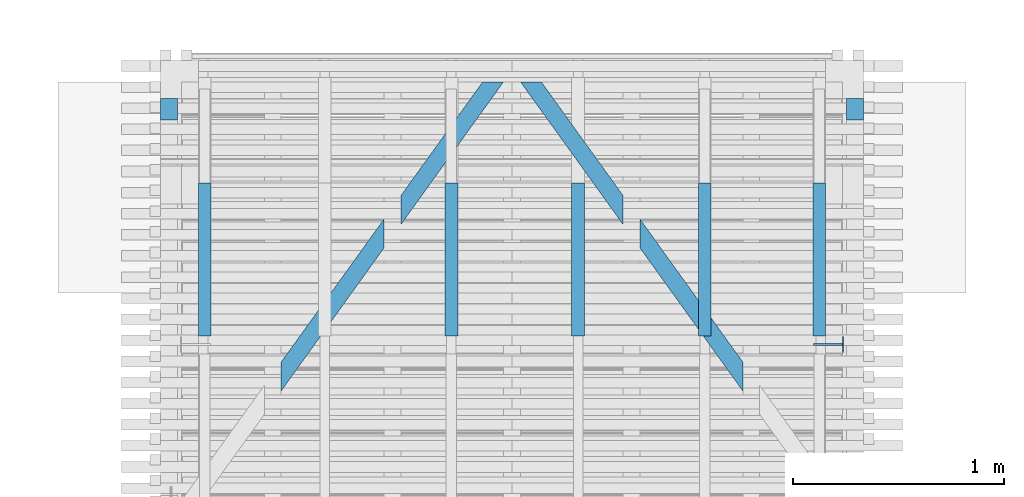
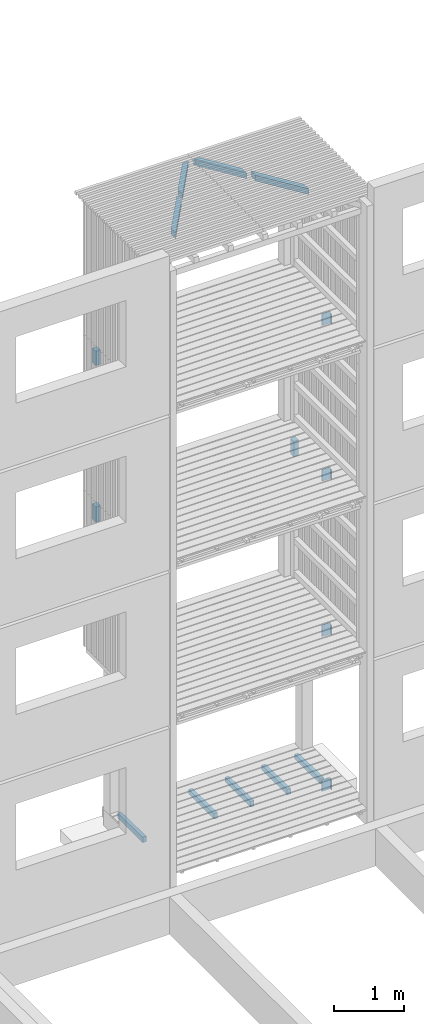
# One storey, part 173 of 182: 16 beams.
"""IFC2X3 building model written with IfcOpenShell, lengths in metres."""

from ifc_helpers import new_model, si_unit, frame, origin, place, context, project, spatial, faceted_brep, element, save


model = new_model("IFC2X3")

# Units and contexts
model_context = context("Model", 3, precision=1e-06, world=origin())
ifc_project = project(units=[si_unit("LENGTHUNIT", "METRE"), si_unit("PLANEANGLEUNIT", "RADIAN")], contexts=[model_context])

# Site, building, storey
site = spatial("IfcSite", under=ifc_project, CompositionType="ELEMENT")
building = spatial("IfcBuilding", under=site, CompositionType="ELEMENT")
storey = spatial("IfcBuildingStorey", under=building, Name="vs", CompositionType="ELEMENT", Elevation=-0.85)

# Beams
placement = place(None, origin())
beam_1_placement = place(placement, frame((46.179401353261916, 5.925077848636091, 2.439999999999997), z_axis=(-1.0, 0.0, 0.0), x_axis=(0.0, 0.0, 1.0)))
element("IfcBeam", 1, at=beam_1_placement, inside=storey, Name="Contre-usinage", context=model_context, shape_type="Brep", body=[
    faceted_brep([(0.2, 0.003999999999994, -0.065999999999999), (0.2, -0.004000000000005, -0.065999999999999), (0.175, -0.004000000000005, -0.065999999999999), (0.175, 0.003999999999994, -0.065999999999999), (0.0, 0.003999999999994, -0.065999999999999), (0.175, 0.003999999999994, -0.065999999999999), (0.175, 0.037999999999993, -0.065999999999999), (0.0, 0.037999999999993, -0.065999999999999), (0.0, -0.038000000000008, -0.065999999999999), (0.175, -0.038000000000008, -0.065999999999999), (0.175, -0.004000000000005, -0.065999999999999), (0.0, -0.004000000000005, -0.065999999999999), (0.0, -0.004000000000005, 0.071000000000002), (0.0, -0.004000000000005, -0.065999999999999), (0.175, -0.004000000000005, -0.065999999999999), (0.2, -0.004000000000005, -0.065999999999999), (0.2, -0.004000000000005, 0.071000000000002), (0.0, 0.003999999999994, 0.071000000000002), (0.0, -0.004000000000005, 0.071000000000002), (0.2, -0.004000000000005, 0.071000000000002), (0.2, 0.003999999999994, 0.071000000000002), (0.0, 0.037999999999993, -0.070999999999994), (0.175, 0.037999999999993, -0.070999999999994), (0.175, -0.038000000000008, -0.070999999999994), (0.0, -0.038000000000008, -0.070999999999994), (0.175, -0.038000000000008, -0.070999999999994), (0.175, 0.037999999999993, -0.070999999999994), (0.175, 0.037999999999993, -0.065999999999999), (0.175, 0.003999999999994, -0.065999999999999), (0.175, -0.004000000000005, -0.065999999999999), (0.175, -0.038000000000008, -0.065999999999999), (0.2, 0.003999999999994, -0.065999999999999), (0.175, 0.003999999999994, -0.065999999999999), (0.0, 0.003999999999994, -0.065999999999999), (0.0, 0.003999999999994, 0.071000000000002), (0.2, 0.003999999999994, 0.071000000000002), (0.2, 0.003999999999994, 0.071000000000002), (0.2, -0.004000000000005, 0.071000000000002), (0.2, -0.004000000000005, -0.065999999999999), (0.2, 0.003999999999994, -0.065999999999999), (0.0, 0.037999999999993, -0.065999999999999), (0.175, 0.037999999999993, -0.065999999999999), (0.175, 0.037999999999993, -0.070999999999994), (0.0, 0.037999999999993, -0.070999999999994), (0.0, 0.037999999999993, -0.070999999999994), (0.0, -0.038000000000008, -0.070999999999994), (0.0, -0.038000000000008, -0.065999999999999), (0.0, -0.004000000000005, -0.065999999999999), (0.0, -0.004000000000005, 0.071000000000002), (0.0, 0.003999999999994, 0.071000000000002), (0.0, 0.003999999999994, -0.065999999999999), (0.0, 0.037999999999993, -0.065999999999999), (0.0, -0.038000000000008, -0.065999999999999), (0.0, -0.038000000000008, -0.070999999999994), (0.175, -0.038000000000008, -0.070999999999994), (0.175, -0.038000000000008, -0.065999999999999)], [[[0, 1, 2, 3]], [[4, 5, 6, 7]], [[8, 9, 10, 11]], [[12, 13, 14, 15, 16]], [[17, 18, 19, 20]], [[21, 22, 23, 24]], [[25, 26, 27, 28, 29, 30]], [[31, 32, 33, 34, 35]], [[36, 37, 38, 39]], [[40, 41, 42, 43]], [[44, 45, 46, 47, 48, 49, 50, 51]], [[52, 53, 54, 55]]]),
])
beam_2_placement = place(placement, frame((46.30540135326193, 7.040077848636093, 4.85796194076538), z_axis=(0.0, -1.0, 0.0), x_axis=(0.0, 0.0, 1.0)))
element("IfcBeam", 2, at=beam_2_placement, inside=storey, Name="Support bardage", context=model_context, shape_type="Brep", body=[
    faceted_brep([(0.267038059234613, -0.039999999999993, -0.05), (0.267038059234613, 0.04000000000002, -0.05), (0.267038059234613, 0.04000000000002, 0.050000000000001), (0.267038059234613, -0.039999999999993, 0.050000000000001), (0.267038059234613, -0.039999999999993, -0.05), (0.267038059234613, -0.039999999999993, 0.050000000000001), (0.0, -0.039999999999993, 0.050000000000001), (0.0, -0.039999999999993, -0.05), (0.267038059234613, 0.04000000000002, -0.05), (0.267038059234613, -0.039999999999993, -0.05), (0.0, -0.039999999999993, -0.05), (0.0, 0.04000000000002, -0.05), (0.0, -0.039999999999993, 0.050000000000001), (0.267038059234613, -0.039999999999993, 0.050000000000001), (0.267038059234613, 0.04000000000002, 0.050000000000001), (0.0, 0.04000000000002, 0.050000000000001), (0.0, 0.04000000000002, 0.050000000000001), (0.267038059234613, 0.04000000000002, 0.050000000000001), (0.267038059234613, 0.04000000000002, -0.05), (0.0, 0.04000000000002, -0.05), (0.0, -0.039999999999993, 0.050000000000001), (0.0, 0.04000000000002, 0.050000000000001), (0.0, 0.04000000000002, -0.05), (0.0, -0.039999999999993, -0.05)], [[[0, 1, 2, 3]], [[4, 5, 6, 7]], [[8, 9, 10, 11]], [[12, 13, 14, 15]], [[16, 17, 18, 19]], [[20, 21, 22, 23]]]),
])
beam_3_placement = place(placement, frame((45.239539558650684, 6.516889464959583, 10.404999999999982), z_axis=(0.0, 0.0, 1.0), x_axis=(-0.583951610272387, 0.811788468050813, 0.0)))
element("IfcBeam", 3, at=beam_3_placement, inside=storey, Name="Support bardage", context=model_context, shape_type="Brep", body=[
    faceted_brep([(0.0, 0.040000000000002, 0.050000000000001), (0.0, 0.040000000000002, -0.050000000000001), (0.1112131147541, -0.039999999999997, -0.050000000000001), (0.1112131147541, -0.039999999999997, 0.050000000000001), (0.775855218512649, -0.039999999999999, 0.050000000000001), (0.83340238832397, 0.040000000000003, 0.050000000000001), (0.0, 0.040000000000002, 0.050000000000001), (0.1112131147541, -0.039999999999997, 0.050000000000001), (0.83340238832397, 0.040000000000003, -0.049999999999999), (0.775855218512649, -0.039999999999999, -0.050000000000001), (0.1112131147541, -0.039999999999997, -0.050000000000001), (0.0, 0.040000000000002, -0.050000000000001), (0.0, 0.040000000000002, 0.050000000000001), (0.83340238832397, 0.040000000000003, 0.050000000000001), (0.83340238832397, 0.040000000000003, -0.049999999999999), (0.0, 0.040000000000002, -0.050000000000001), (0.83340238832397, 0.040000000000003, 0.050000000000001), (0.775855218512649, -0.039999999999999, 0.050000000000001), (0.775855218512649, -0.039999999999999, -0.050000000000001), (0.83340238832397, 0.040000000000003, -0.049999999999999), (0.1112131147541, -0.039999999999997, -0.050000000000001), (0.775855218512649, -0.039999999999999, -0.050000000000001), (0.775855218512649, -0.039999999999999, 0.050000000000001), (0.1112131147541, -0.039999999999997, 0.050000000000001)], [[[0, 1, 2, 3]], [[4, 5, 6, 7]], [[8, 9, 10, 11]], [[12, 13, 14, 15]], [[16, 17, 18, 19]], [[20, 21, 22, 23]]]),
])
beam_4_placement = place(placement, frame((44.121263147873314, 6.516889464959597, 10.404999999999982), z_axis=(0.0, 0.0, 1.0), x_axis=(0.583951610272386, 0.811788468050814, 0.0)))
element("IfcBeam", 4, at=beam_4_placement, inside=storey, Name="Support bardage", context=model_context, shape_type="Brep", body=[
    faceted_brep([(0.775855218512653, 0.039999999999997, -0.050000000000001), (0.775855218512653, 0.039999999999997, 0.050000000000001), (0.833402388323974, -0.040000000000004, 0.050000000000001), (0.833402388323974, -0.040000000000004, -0.049999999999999), (0.833402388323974, -0.040000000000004, -0.049999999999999), (0.833402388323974, -0.040000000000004, 0.050000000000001), (4e-15, -0.040000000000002, 0.050000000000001), (4e-15, -0.040000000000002, -0.050000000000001), (0.775855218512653, 0.039999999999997, -0.050000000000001), (0.833402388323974, -0.040000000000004, -0.049999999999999), (4e-15, -0.040000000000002, -0.050000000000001), (0.111213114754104, 0.039999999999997, -0.050000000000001), (0.775855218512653, 0.039999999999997, 0.050000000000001), (0.775855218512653, 0.039999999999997, -0.050000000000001), (0.111213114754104, 0.039999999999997, -0.050000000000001), (0.111213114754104, 0.039999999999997, 0.050000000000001), (0.833402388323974, -0.040000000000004, 0.050000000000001), (0.775855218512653, 0.039999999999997, 0.050000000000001), (0.111213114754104, 0.039999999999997, 0.050000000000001), (4e-15, -0.040000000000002, 0.050000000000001), (0.111213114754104, 0.039999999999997, -0.050000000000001), (4e-15, -0.040000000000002, -0.050000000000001), (4e-15, -0.040000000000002, 0.050000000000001), (0.111213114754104, 0.039999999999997, 0.050000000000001)], [[[0, 1, 2, 3]], [[4, 5, 6, 7]], [[8, 9, 10, 11]], [[12, 13, 14, 15]], [[16, 17, 18, 19]], [[20, 21, 22, 23]]]),
])
beam_5_placement = place(placement, frame((46.179401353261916, 5.925077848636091, 5.139999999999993), z_axis=(-1.0, 0.0, 0.0), x_axis=(0.0, 0.0, 1.0)))
element("IfcBeam", 5, at=beam_5_placement, inside=storey, Name="Contre-usinage", context=model_context, shape_type="Brep", body=[
    faceted_brep([(0.2, 0.003999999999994, -0.065999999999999), (0.2, -0.004000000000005, -0.065999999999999), (0.174999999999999, -0.004000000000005, -0.065999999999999), (0.174999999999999, 0.003999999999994, -0.065999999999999), (0.0, 0.003999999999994, -0.065999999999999), (0.174999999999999, 0.003999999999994, -0.065999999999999), (0.174999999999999, 0.037999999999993, -0.065999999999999), (0.0, 0.037999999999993, -0.065999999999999), (0.0, -0.038000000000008, -0.065999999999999), (0.174999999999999, -0.038000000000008, -0.065999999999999), (0.174999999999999, -0.004000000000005, -0.065999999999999), (0.0, -0.004000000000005, -0.065999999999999), (0.0, -0.004000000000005, 0.071000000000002), (0.0, -0.004000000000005, -0.065999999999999), (0.174999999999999, -0.004000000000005, -0.065999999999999), (0.2, -0.004000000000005, -0.065999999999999), (0.2, -0.004000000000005, 0.071000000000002), (0.0, 0.003999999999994, 0.071000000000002), (0.0, -0.004000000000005, 0.071000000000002), (0.2, -0.004000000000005, 0.071000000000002), (0.2, 0.003999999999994, 0.071000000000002), (0.0, 0.037999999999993, -0.070999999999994), (0.174999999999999, 0.037999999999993, -0.070999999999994), (0.174999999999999, -0.038000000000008, -0.070999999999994), (0.0, -0.038000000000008, -0.070999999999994), (0.174999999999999, -0.038000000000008, -0.070999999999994), (0.174999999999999, 0.037999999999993, -0.070999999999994), (0.174999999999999, 0.037999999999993, -0.065999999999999), (0.174999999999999, 0.003999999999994, -0.065999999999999), (0.174999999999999, -0.004000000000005, -0.065999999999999), (0.174999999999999, -0.038000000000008, -0.065999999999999), (0.2, 0.003999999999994, -0.065999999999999), (0.174999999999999, 0.003999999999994, -0.065999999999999), (0.0, 0.003999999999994, -0.065999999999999), (0.0, 0.003999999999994, 0.071000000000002), (0.2, 0.003999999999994, 0.071000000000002), (0.2, 0.003999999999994, 0.071000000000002), (0.2, -0.004000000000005, 0.071000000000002), (0.2, -0.004000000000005, -0.065999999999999), (0.2, 0.003999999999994, -0.065999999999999), (0.0, 0.037999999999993, -0.065999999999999), (0.174999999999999, 0.037999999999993, -0.065999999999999), (0.174999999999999, 0.037999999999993, -0.070999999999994), (0.0, 0.037999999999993, -0.070999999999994), (0.0, 0.037999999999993, -0.070999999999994), (0.0, -0.038000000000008, -0.070999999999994), (0.0, -0.038000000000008, -0.065999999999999), (0.0, -0.004000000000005, -0.065999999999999), (0.0, -0.004000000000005, 0.071000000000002), (0.0, 0.003999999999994, 0.071000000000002), (0.0, 0.003999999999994, -0.065999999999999), (0.0, 0.037999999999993, -0.065999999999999), (0.0, -0.038000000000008, -0.065999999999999), (0.0, -0.038000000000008, -0.070999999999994), (0.174999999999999, -0.038000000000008, -0.070999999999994), (0.174999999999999, -0.038000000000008, -0.065999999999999)], [[[0, 1, 2, 3]], [[4, 5, 6, 7]], [[8, 9, 10, 11]], [[12, 13, 14, 15, 16]], [[17, 18, 19, 20]], [[21, 22, 23, 24]], [[25, 26, 27, 28, 29, 30]], [[31, 32, 33, 34, 35]], [[36, 37, 38, 39]], [[40, 41, 42, 43]], [[44, 45, 46, 47, 48, 49, 50, 51]], [[52, 53, 54, 55]]]),
])
beam_6_placement = place(placement, frame((46.179401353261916, 5.925077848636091, -0.243899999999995), z_axis=(-1.0, 0.0, 0.0), x_axis=(0.0, 0.0, 1.0)))
element("IfcBeam", 6, at=beam_6_placement, inside=storey, Name="Contre-usinage", context=model_context, shape_type="Brep", body=[
    faceted_brep([(0.2, 0.003999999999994, -0.065999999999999), (0.2, -0.004000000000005, -0.065999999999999), (0.175, -0.004000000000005, -0.065999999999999), (0.175, 0.003999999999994, -0.065999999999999), (0.0, 0.003999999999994, -0.065999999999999), (0.175, 0.003999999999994, -0.065999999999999), (0.175, 0.037999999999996, -0.065999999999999), (0.0, 0.037999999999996, -0.065999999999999), (0.0, -0.038000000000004, -0.065999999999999), (0.175, -0.038000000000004, -0.065999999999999), (0.175, -0.004000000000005, -0.065999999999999), (0.0, -0.004000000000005, -0.065999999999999), (0.0, -0.004000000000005, 0.071000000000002), (0.0, -0.004000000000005, -0.065999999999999), (0.175, -0.004000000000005, -0.065999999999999), (0.2, -0.004000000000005, -0.065999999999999), (0.2, -0.004000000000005, 0.071000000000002), (0.0, 0.003999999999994, 0.071000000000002), (0.0, -0.004000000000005, 0.071000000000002), (0.2, -0.004000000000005, 0.071000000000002), (0.2, 0.003999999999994, 0.071000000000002), (0.0, 0.037999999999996, -0.071000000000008), (0.175, 0.037999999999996, -0.071000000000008), (0.175, -0.038000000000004, -0.071000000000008), (0.0, -0.038000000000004, -0.071000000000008), (0.2, 0.003999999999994, 0.071000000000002), (0.2, -0.004000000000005, 0.071000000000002), (0.2, -0.004000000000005, -0.065999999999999), (0.2, 0.003999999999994, -0.065999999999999), (0.2, 0.003999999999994, -0.065999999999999), (0.175, 0.003999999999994, -0.065999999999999), (0.0, 0.003999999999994, -0.065999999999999), (0.0, 0.003999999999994, 0.071000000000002), (0.2, 0.003999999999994, 0.071000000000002), (0.175, -0.038000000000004, -0.071000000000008), (0.175, 0.037999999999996, -0.071000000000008), (0.175, 0.037999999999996, -0.065999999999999), (0.175, 0.003999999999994, -0.065999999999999), (0.175, -0.004000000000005, -0.065999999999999), (0.175, -0.038000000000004, -0.065999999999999), (0.0, 0.037999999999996, -0.071000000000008), (0.0, -0.038000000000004, -0.071000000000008), (0.0, -0.038000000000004, -0.065999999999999), (0.0, -0.004000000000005, -0.065999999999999), (0.0, -0.004000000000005, 0.071000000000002), (0.0, 0.003999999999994, 0.071000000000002), (0.0, 0.003999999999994, -0.065999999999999), (0.0, 0.037999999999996, -0.065999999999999), (0.0, 0.037999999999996, -0.071000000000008), (0.0, 0.037999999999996, -0.065999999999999), (0.175, 0.037999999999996, -0.065999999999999), (0.175, 0.037999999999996, -0.071000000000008), (0.0, -0.038000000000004, -0.065999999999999), (0.0, -0.038000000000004, -0.071000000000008), (0.175, -0.038000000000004, -0.071000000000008), (0.175, -0.038000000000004, -0.065999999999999)], [[[0, 1, 2, 3]], [[4, 5, 6, 7]], [[8, 9, 10, 11]], [[12, 13, 14, 15, 16]], [[17, 18, 19, 20]], [[21, 22, 23, 24]], [[25, 26, 27, 28]], [[29, 30, 31, 32, 33]], [[34, 35, 36, 37, 38, 39]], [[40, 41, 42, 43, 44, 45, 46, 47]], [[48, 49, 50, 51]], [[52, 53, 54, 55]]]),
])
beam_7_placement = place(placement, frame((43.055401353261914, 7.04007784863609, 7.576188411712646), z_axis=(0.0, -1.0, 0.0), x_axis=(0.0, 0.0, 1.0)))
element("IfcBeam", 7, at=beam_7_placement, inside=storey, Name="Support bardage", context=model_context, shape_type="Brep", body=[
    faceted_brep([(0.248811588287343, -0.040000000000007, -0.050000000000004), (0.248811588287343, 0.039999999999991, -0.050000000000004), (0.248811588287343, 0.039999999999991, 0.049999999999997), (0.248811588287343, -0.040000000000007, 0.049999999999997), (0.248811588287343, 0.039999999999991, 0.049999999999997), (0.248811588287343, 0.039999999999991, -0.050000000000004), (0.0, 0.039999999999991, -0.050000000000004), (0.0, 0.039999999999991, 0.049999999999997), (0.248811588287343, 0.039999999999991, -0.050000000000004), (0.248811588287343, -0.040000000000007, -0.050000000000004), (0.0, -0.040000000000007, -0.050000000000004), (0.0, 0.039999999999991, -0.050000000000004), (0.248811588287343, -0.040000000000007, -0.050000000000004), (0.248811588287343, -0.040000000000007, 0.049999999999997), (0.0, -0.040000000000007, 0.049999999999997), (0.0, -0.040000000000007, -0.050000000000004), (0.248811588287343, -0.040000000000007, 0.049999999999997), (0.248811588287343, 0.039999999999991, 0.049999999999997), (0.0, 0.039999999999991, 0.049999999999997), (0.0, -0.040000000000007, 0.049999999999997), (0.0, -0.040000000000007, -0.050000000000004), (0.0, -0.040000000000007, 0.049999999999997), (0.0, 0.039999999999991, 0.049999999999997), (0.0, 0.039999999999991, -0.050000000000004)], [[[0, 1, 2, 3]], [[4, 5, 6, 7]], [[8, 9, 10, 11]], [[12, 13, 14, 15]], [[16, 17, 18, 19]], [[20, 21, 22, 23]]]),
])
beam_8_placement = place(placement, frame((45.806206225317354, 5.729129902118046, 10.404999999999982), z_axis=(0.0, 0.0, 1.0), x_axis=(-0.583951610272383, 0.811788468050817, 0.0)))
element("IfcBeam", 8, at=beam_8_placement, inside=storey, Name="Support bardage", context=model_context, shape_type="Brep", body=[
    faceted_brep([(0.111213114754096, -0.040000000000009, -0.050000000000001), (0.111213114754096, -0.040000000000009, 0.050000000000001), (-1e-14, 0.039999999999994, 0.050000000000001), (-1e-14, 0.039999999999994, -0.050000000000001), (0.833402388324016, 0.040000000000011, -0.050000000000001), (0.94461550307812, -0.039999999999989, -0.050000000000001), (0.111213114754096, -0.040000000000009, -0.050000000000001), (-1e-14, 0.039999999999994, -0.050000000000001), (0.833402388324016, 0.040000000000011, 0.050000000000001), (0.833402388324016, 0.040000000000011, -0.050000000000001), (-1e-14, 0.039999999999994, -0.050000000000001), (-1e-14, 0.039999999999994, 0.050000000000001), (0.111213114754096, -0.040000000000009, -0.050000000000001), (0.94461550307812, -0.039999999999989, -0.050000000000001), (0.94461550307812, -0.039999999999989, 0.050000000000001), (0.111213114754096, -0.040000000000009, 0.050000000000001), (0.111213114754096, -0.040000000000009, 0.050000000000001), (0.94461550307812, -0.039999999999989, 0.050000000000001), (0.833402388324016, 0.040000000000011, 0.050000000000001), (-1e-14, 0.039999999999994, 0.050000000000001), (0.94461550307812, -0.039999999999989, -0.050000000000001), (0.833402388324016, 0.040000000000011, -0.050000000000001), (0.833402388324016, 0.040000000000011, 0.050000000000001), (0.94461550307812, -0.039999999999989, 0.050000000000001)], [[[0, 1, 2, 3]], [[4, 5, 6, 7]], [[8, 9, 10, 11]], [[12, 13, 14, 15]], [[16, 17, 18, 19]], [[20, 21, 22, 23]]]),
])
beam_9_placement = place(placement, frame((43.55459648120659, 5.729129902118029, 10.404999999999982), z_axis=(0.0, 0.0, 1.0), x_axis=(0.583951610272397, 0.811788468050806, 0.0)))
element("IfcBeam", 9, at=beam_9_placement, inside=storey, Name="Support bardage", context=model_context, shape_type="Brep", body=[
    faceted_brep([(0.833402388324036, -0.040000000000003, 0.050000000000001), (0.833402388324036, -0.040000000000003, -0.050000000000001), (0.944615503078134, 0.039999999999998, -0.050000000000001), (0.944615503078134, 0.039999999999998, 0.050000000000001), (0.833402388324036, -0.040000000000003, -0.050000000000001), (0.833402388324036, -0.040000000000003, 0.050000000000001), (3e-15, -0.040000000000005, 0.050000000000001), (3e-15, -0.040000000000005, -0.050000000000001), (0.944615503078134, 0.039999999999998, -0.050000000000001), (0.833402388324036, -0.040000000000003, -0.050000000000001), (3e-15, -0.040000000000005, -0.050000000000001), (0.111213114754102, 0.039999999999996, -0.050000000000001), (0.944615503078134, 0.039999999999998, 0.050000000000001), (0.944615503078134, 0.039999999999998, -0.050000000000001), (0.111213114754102, 0.039999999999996, -0.050000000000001), (0.111213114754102, 0.039999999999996, 0.050000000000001), (0.833402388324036, -0.040000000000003, 0.050000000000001), (0.944615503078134, 0.039999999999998, 0.050000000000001), (0.111213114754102, 0.039999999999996, 0.050000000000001), (3e-15, -0.040000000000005, 0.050000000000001), (0.111213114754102, 0.039999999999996, -0.050000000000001), (3e-15, -0.040000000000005, -0.050000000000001), (3e-15, -0.040000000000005, 0.050000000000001), (0.111213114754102, 0.039999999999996, 0.050000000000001)], [[[0, 1, 2, 3]], [[4, 5, 6, 7]], [[8, 9, 10, 11]], [[12, 13, 14, 15]], [[16, 17, 18, 19]], [[20, 21, 22, 23]]]),
])
beam_10_placement = place(placement, frame((43.055401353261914, 7.04007784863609, 4.85796194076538), z_axis=(0.0, -1.0, 0.0), x_axis=(0.0, 0.0, 1.0)))
element("IfcBeam", 10, at=beam_10_placement, inside=storey, Name="Support bardage", context=model_context, shape_type="Brep", body=[
    faceted_brep([(0.267038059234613, -0.040000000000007, -0.050000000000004), (0.267038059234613, 0.039999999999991, -0.050000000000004), (0.267038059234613, 0.039999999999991, 0.049999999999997), (0.267038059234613, -0.040000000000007, 0.049999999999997), (0.267038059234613, 0.039999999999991, 0.049999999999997), (0.267038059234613, 0.039999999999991, -0.050000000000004), (0.0, 0.039999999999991, -0.050000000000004), (0.0, 0.039999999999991, 0.049999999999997), (0.267038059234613, -0.040000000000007, 0.049999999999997), (0.267038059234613, 0.039999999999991, 0.049999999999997), (0.0, 0.039999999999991, 0.049999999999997), (0.0, -0.040000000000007, 0.049999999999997), (0.267038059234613, 0.039999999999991, -0.050000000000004), (0.267038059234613, -0.040000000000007, -0.050000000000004), (0.0, -0.040000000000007, -0.050000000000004), (0.0, 0.039999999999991, -0.050000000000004), (0.267038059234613, -0.040000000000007, -0.050000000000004), (0.267038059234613, -0.040000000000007, 0.049999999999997), (0.0, -0.040000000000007, 0.049999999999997), (0.0, -0.040000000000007, -0.050000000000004), (0.0, 0.039999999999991, -0.050000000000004), (0.0, -0.040000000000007, -0.050000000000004), (0.0, -0.040000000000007, 0.049999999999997), (0.0, 0.039999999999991, 0.049999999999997)], [[[0, 1, 2, 3]], [[4, 5, 6, 7]], [[8, 9, 10, 11]], [[12, 13, 14, 15]], [[16, 17, 18, 19]], [[20, 21, 22, 23]]]),
])
beam_11_placement = place(placement, frame((44.993401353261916, 5.965077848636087, -0.091949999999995), z_axis=(0.0, 0.0, 1.0), x_axis=(0.0, 1.0, 0.0)))
element("IfcBeam", 11, at=beam_11_placement, inside=storey, Name="Solive", context=model_context, shape_type="Brep", body=[
    faceted_brep([(0.0, -0.030000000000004, -0.04805), (0.0, 0.029999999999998, -0.04805), (0.725000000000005, 0.029999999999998, -0.04805), (0.725000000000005, -0.030000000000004, -0.04805), (0.725000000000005, -0.030000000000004, 0.033549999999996), (0.0, -0.030000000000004, 0.048049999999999), (0.0, -0.030000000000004, -0.04805), (0.725000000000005, -0.030000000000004, -0.04805), (0.0, -0.030000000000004, 0.048049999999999), (0.725000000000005, -0.030000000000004, 0.033549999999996), (0.725000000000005, 0.029999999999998, 0.033549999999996), (0.0, 0.029999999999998, 0.048049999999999), (0.0, -0.030000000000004, 0.048049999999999), (0.0, 0.029999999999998, 0.048049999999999), (0.0, 0.029999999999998, -0.04805), (0.0, -0.030000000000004, -0.04805), (0.0, 0.029999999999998, -0.04805), (0.0, 0.029999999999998, 0.048049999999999), (0.725000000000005, 0.029999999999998, 0.033549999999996), (0.725000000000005, 0.029999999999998, -0.04805), (0.725000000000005, -0.030000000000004, 0.033549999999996), (0.725000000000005, -0.030000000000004, -0.04805), (0.725000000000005, 0.029999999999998, -0.04805), (0.725000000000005, 0.029999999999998, 0.033549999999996)], [[[0, 1, 2, 3]], [[4, 5, 6, 7]], [[8, 9, 10, 11]], [[12, 13, 14, 15]], [[16, 17, 18, 19]], [[20, 21, 22, 23]]]),
])
beam_12_placement = place(placement, frame((45.59340135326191, 5.965077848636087, -0.091949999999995), z_axis=(0.0, 0.0, 1.0), x_axis=(0.0, 1.0, 0.0)))
element("IfcBeam", 12, at=beam_12_placement, inside=storey, Name="Solive", context=model_context, shape_type="Brep", body=[
    faceted_brep([(0.0, -0.029999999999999, -0.04805), (0.0, 0.030000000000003, -0.04805), (0.725000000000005, 0.030000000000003, -0.04805), (0.725000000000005, -0.029999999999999, -0.04805), (0.725000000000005, -0.029999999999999, 0.033549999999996), (0.0, -0.029999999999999, 0.048049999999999), (0.0, -0.029999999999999, -0.04805), (0.725000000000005, -0.029999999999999, -0.04805), (0.0, -0.029999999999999, 0.048049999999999), (0.725000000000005, -0.029999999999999, 0.033549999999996), (0.725000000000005, 0.030000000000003, 0.033549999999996), (0.0, 0.030000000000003, 0.048049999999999), (0.0, -0.029999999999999, 0.048049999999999), (0.0, 0.030000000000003, 0.048049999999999), (0.0, 0.030000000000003, -0.04805), (0.0, -0.029999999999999, -0.04805), (0.0, 0.030000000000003, -0.04805), (0.0, 0.030000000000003, 0.048049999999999), (0.725000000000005, 0.030000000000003, 0.033549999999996), (0.725000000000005, 0.030000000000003, -0.04805), (0.725000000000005, -0.029999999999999, 0.033549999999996), (0.725000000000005, -0.029999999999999, -0.04805), (0.725000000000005, 0.030000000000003, -0.04805), (0.725000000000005, 0.030000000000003, 0.033549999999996)], [[[0, 1, 2, 3]], [[4, 5, 6, 7]], [[8, 9, 10, 11]], [[12, 13, 14, 15]], [[16, 17, 18, 19]], [[20, 21, 22, 23]]]),
])
beam_13_placement = place(placement, frame((43.225401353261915, 5.965077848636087, -0.091949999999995), z_axis=(0.0, 0.0, 1.0), x_axis=(0.0, 1.0, 0.0)))
element("IfcBeam", 13, at=beam_13_placement, inside=storey, Name="Solive", context=model_context, shape_type="Brep", body=[
    faceted_brep([(0.0, -0.030000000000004, -0.04805), (0.0, 0.029999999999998, -0.04805), (0.725000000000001, 0.029999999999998, -0.04805), (0.725000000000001, -0.030000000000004, -0.04805), (0.725000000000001, -0.030000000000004, 0.033549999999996), (0.0, -0.030000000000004, 0.048049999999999), (0.0, -0.030000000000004, -0.04805), (0.725000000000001, -0.030000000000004, -0.04805), (0.0, -0.030000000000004, 0.048049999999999), (0.725000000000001, -0.030000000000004, 0.033549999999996), (0.725000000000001, 0.029999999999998, 0.033549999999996), (0.0, 0.029999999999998, 0.048049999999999), (0.0, -0.030000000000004, 0.048049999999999), (0.0, 0.029999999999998, 0.048049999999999), (0.0, 0.029999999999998, -0.04805), (0.0, -0.030000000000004, -0.04805), (0.0, 0.029999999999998, -0.04805), (0.0, 0.029999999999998, 0.048049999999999), (0.725000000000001, 0.029999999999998, 0.033549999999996), (0.725000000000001, 0.029999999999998, -0.04805), (0.725000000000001, -0.030000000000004, 0.033549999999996), (0.725000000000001, -0.030000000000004, -0.04805), (0.725000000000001, 0.029999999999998, -0.04805), (0.725000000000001, 0.029999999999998, 0.033549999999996)], [[[0, 1, 2, 3]], [[4, 5, 6, 7]], [[8, 9, 10, 11]], [[12, 13, 14, 15]], [[16, 17, 18, 19]], [[20, 21, 22, 23]]]),
])
beam_14_placement = place(placement, frame((46.179401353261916, 5.925077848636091, 7.839999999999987), z_axis=(-1.0, 0.0, 0.0), x_axis=(0.0, 0.0, 1.0)))
element("IfcBeam", 14, at=beam_14_placement, inside=storey, Name="Contre-usinage", context=model_context, shape_type="Brep", body=[
    faceted_brep([(0.200000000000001, 0.003999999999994, -0.065999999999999), (0.200000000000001, -0.004000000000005, -0.065999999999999), (0.175000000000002, -0.004000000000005, -0.065999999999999), (0.175000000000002, 0.003999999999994, -0.065999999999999), (2e-15, 0.003999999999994, -0.065999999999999), (0.175000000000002, 0.003999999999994, -0.065999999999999), (0.175000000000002, 0.037999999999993, -0.065999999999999), (2e-15, 0.037999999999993, -0.065999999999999), (2e-15, -0.038000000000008, -0.065999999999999), (0.175000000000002, -0.038000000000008, -0.065999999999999), (0.175000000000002, -0.004000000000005, -0.065999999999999), (2e-15, -0.004000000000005, -0.065999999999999), (2e-15, -0.004000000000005, 0.071000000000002), (2e-15, -0.004000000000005, -0.065999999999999), (0.175000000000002, -0.004000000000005, -0.065999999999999), (0.200000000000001, -0.004000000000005, -0.065999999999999), (0.200000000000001, -0.004000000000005, 0.071000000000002), (2e-15, 0.003999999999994, 0.071000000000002), (2e-15, -0.004000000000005, 0.071000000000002), (0.200000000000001, -0.004000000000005, 0.071000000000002), (0.200000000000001, 0.003999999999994, 0.071000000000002), (2e-15, 0.037999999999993, -0.071000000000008), (0.175000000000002, 0.037999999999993, -0.071000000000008), (0.175000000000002, -0.038000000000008, -0.071000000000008), (2e-15, -0.038000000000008, -0.071000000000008), (0.175000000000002, -0.038000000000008, -0.071000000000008), (0.175000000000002, 0.037999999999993, -0.071000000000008), (0.175000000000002, 0.037999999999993, -0.065999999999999), (0.175000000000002, 0.003999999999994, -0.065999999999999), (0.175000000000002, -0.004000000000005, -0.065999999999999), (0.175000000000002, -0.038000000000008, -0.065999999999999), (0.200000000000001, 0.003999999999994, -0.065999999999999), (0.175000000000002, 0.003999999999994, -0.065999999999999), (2e-15, 0.003999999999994, -0.065999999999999), (2e-15, 0.003999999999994, 0.071000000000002), (0.200000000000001, 0.003999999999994, 0.071000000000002), (0.200000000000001, 0.003999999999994, 0.071000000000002), (0.200000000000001, -0.004000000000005, 0.071000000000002), (0.200000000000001, -0.004000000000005, -0.065999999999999), (0.200000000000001, 0.003999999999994, -0.065999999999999), (2e-15, 0.037999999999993, -0.065999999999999), (0.175000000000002, 0.037999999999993, -0.065999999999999), (0.175000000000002, 0.037999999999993, -0.071000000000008), (2e-15, 0.037999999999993, -0.071000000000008), (2e-15, 0.037999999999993, -0.071000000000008), (2e-15, -0.038000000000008, -0.071000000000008), (2e-15, -0.038000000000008, -0.065999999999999), (2e-15, -0.004000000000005, -0.065999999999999), (2e-15, -0.004000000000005, 0.071000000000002), (2e-15, 0.003999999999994, 0.071000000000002), (2e-15, 0.003999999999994, -0.065999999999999), (2e-15, 0.037999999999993, -0.065999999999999), (2e-15, -0.038000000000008, -0.065999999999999), (2e-15, -0.038000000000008, -0.071000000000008), (0.175000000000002, -0.038000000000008, -0.071000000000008), (0.175000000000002, -0.038000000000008, -0.065999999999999)], [[[0, 1, 2, 3]], [[4, 5, 6, 7]], [[8, 9, 10, 11]], [[12, 13, 14, 15, 16]], [[17, 18, 19, 20]], [[21, 22, 23, 24]], [[25, 26, 27, 28, 29, 30]], [[31, 32, 33, 34, 35]], [[36, 37, 38, 39]], [[40, 41, 42, 43]], [[44, 45, 46, 47, 48, 49, 50, 51]], [[52, 53, 54, 55]]]),
])
beam_15_placement = place(placement, frame((46.13540135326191, 5.965077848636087, -0.091949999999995), z_axis=(0.0, 0.0, 1.0), x_axis=(0.0, 1.0, 0.0)))
element("IfcBeam", 15, at=beam_15_placement, inside=storey, Name="Solive", context=model_context, shape_type="Brep", body=[
    faceted_brep([(0.0, -0.03, -0.04805), (0.0, 0.030000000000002, -0.04805), (0.725000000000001, 0.030000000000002, -0.04805), (0.725000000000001, -0.03, -0.04805), (0.725000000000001, -0.03, 0.033549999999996), (0.0, -0.03, 0.048049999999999), (0.0, -0.03, -0.04805), (0.725000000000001, -0.03, -0.04805), (0.0, -0.03, 0.048049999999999), (0.725000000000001, -0.03, 0.033549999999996), (0.725000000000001, 0.030000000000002, 0.033549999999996), (0.0, 0.030000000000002, 0.048049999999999), (0.0, -0.03, 0.048049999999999), (0.0, 0.030000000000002, 0.048049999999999), (0.0, 0.030000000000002, -0.04805), (0.0, -0.03, -0.04805), (0.0, 0.030000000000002, -0.04805), (0.0, 0.030000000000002, 0.048049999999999), (0.725000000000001, 0.030000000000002, 0.033549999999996), (0.725000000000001, 0.030000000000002, -0.04805), (0.725000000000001, -0.03, 0.033549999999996), (0.725000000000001, -0.03, -0.04805), (0.725000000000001, 0.030000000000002, -0.04805), (0.725000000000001, 0.030000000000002, 0.033549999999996)], [[[0, 1, 2, 3]], [[4, 5, 6, 7]], [[8, 9, 10, 11]], [[12, 13, 14, 15]], [[16, 17, 18, 19]], [[20, 21, 22, 23]]]),
])
beam_16_placement = place(placement, frame((44.39340135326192, 5.965077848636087, -0.091949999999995), z_axis=(0.0, 0.0, 1.0), x_axis=(0.0, 1.0, 0.0)))
element("IfcBeam", 16, at=beam_16_placement, inside=storey, Name="Solive", context=model_context, shape_type="Brep", body=[
    faceted_brep([(0.0, -0.029999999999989, -0.04805), (0.0, 0.029999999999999, -0.04805), (0.725000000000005, 0.029999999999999, -0.04805), (0.725000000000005, -0.030000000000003, -0.04805), (0.725000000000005, -0.029999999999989, 0.033549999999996), (0.0, -0.029999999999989, 0.048049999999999), (0.0, -0.029999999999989, -0.04805), (0.725000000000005, -0.030000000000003, -0.04805), (0.0, -0.029999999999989, 0.048049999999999), (0.725000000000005, -0.029999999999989, 0.033549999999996), (0.725000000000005, 0.029999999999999, 0.033549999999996), (0.0, 0.029999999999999, 0.048049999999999), (0.0, -0.029999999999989, 0.048049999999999), (0.0, 0.029999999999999, 0.048049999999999), (0.0, 0.029999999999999, -0.04805), (0.0, -0.029999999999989, -0.04805), (0.0, 0.029999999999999, -0.04805), (0.0, 0.029999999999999, 0.048049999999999), (0.725000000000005, 0.029999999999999, 0.033549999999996), (0.725000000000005, 0.029999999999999, -0.04805), (0.725000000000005, -0.029999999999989, 0.033549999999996), (0.725000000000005, -0.030000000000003, -0.04805), (0.725000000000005, 0.029999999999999, -0.04805), (0.725000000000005, 0.029999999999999, 0.033549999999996)], [[[0, 1, 2, 3]], [[4, 5, 6, 7]], [[8, 9, 10, 11]], [[12, 13, 14, 15]], [[16, 17, 18, 19]], [[20, 21, 22, 23]]]),
])

save(model, "model.ifc")
